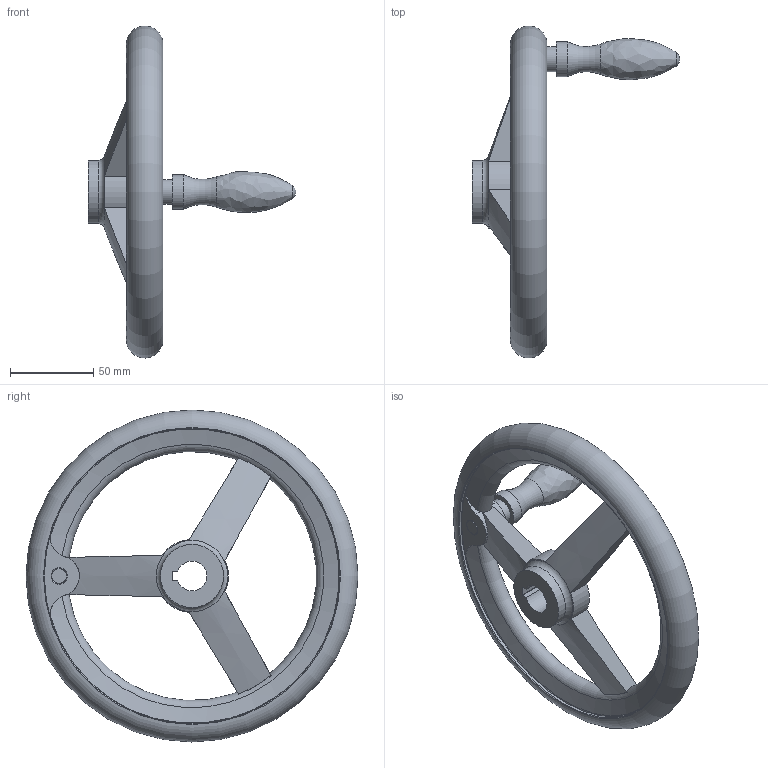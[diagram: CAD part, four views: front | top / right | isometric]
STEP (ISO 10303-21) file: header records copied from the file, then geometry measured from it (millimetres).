
FILE_DESCRIPTION( ( 'STEP AP203' ), '1' );
FILE_NAME( 'C:/Temp/Ganter_Step_05_03_2020/data/1_3/din_950/din_950_k/din_950_k_d/Handwheel DIN 950-AL-200-K18-D.stp', '2020-03-05T10:30:57', ( 'License CC BY-ND 4.0' ), ( 'CADENAS' ), ' ', 'PARTsolutions', ' ' );
FILE_SCHEMA( ( 'CONFIG_CONTROL_DESIGN' ) );
Length unit declared in the file: millimetre
Products named in the file (1): _Handwheel DIN 950-AL-200-K18-D
Bounding box: 125 x 199.99 x 199.99 mm (x, y, z)
Volume: 300044.5 mm3; surface area: 64178.7 mm2
Topology: 1 solids, 1 shells, 56 faces, 155 edges, 99 vertices
Faces by surface type: cylinder 18, torus 15, plane 15, cone 6, bspline 1, sphere 1
Full cylindrical faces by diameter (mm): 15 x1, 21 x1, 38 x2, 178 x2
Entity records: 2134 total; most frequent: CARTESIAN_POINT 811, ORIENTED_EDGE 258, DIRECTION 248, EDGE_CURVE 129, AXIS2_PLACEMENT_3D 111, VERTEX_POINT 95, EDGE_LOOP 82, FACE_OUTER_BOUND 71
